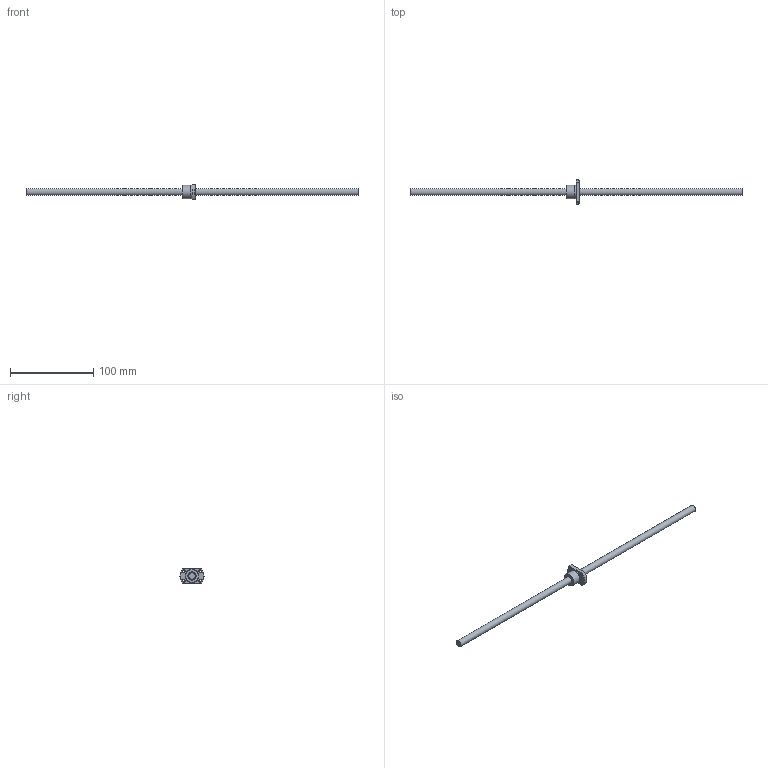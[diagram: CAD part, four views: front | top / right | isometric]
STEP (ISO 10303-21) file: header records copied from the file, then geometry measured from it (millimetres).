
FILE_DESCRIPTION( ( 'STEP AP214' ), ' ' );
FILE_NAME( 'p:/temp/worker_4/1548_2664/app_52_12015091121530225028859260eae72_000000_00_00_000000/format_0/SR0802.5-400R400C7(188).stp', '2015-09-11T19:53:02', ( '' ), ( '' ), ' ', 'PARTsolutions', ' ' );
FILE_SCHEMA( ( 'AUTOMOTIVE_DESIGN { 1 0 10303 214 1 1 1 1 }' ) );
Length unit declared in the file: millimetre
Products named in the file (3): SR0802.5-400R400C7(188); _SR0802.5(188)_shaft; _SR0802.5C7_nut
Assembly tree (2 placements, depth 2):
  SR0802.5-400R400C7(188)
    _SR0802.5(188)_shaft
    _SR0802.5C7_nut
Bounding box: 400 x 29 x 18 mm (x, y, z)
Volume: 23458.9 mm3; surface area: 12447.1 mm2
Topology: 2 solids, 2 shells, 25 faces, 54 edges, 36 vertices
Faces by surface type: cylinder 11, plane 9, cone 5
Full cylindrical faces by diameter (mm): 3.4 x4, 8 x2, 10 x1, 15.7 x1, 16 x1
Entity records: 918 total; most frequent: CARTESIAN_POINT 130, DIRECTION 118, ORIENTED_EDGE 86, AXIS2_PLACEMENT_3D 55, EDGE_LOOP 48, EDGE_CURVE 43, VERTEX_POINT 35, FACE_OUTER_BOUND 34
